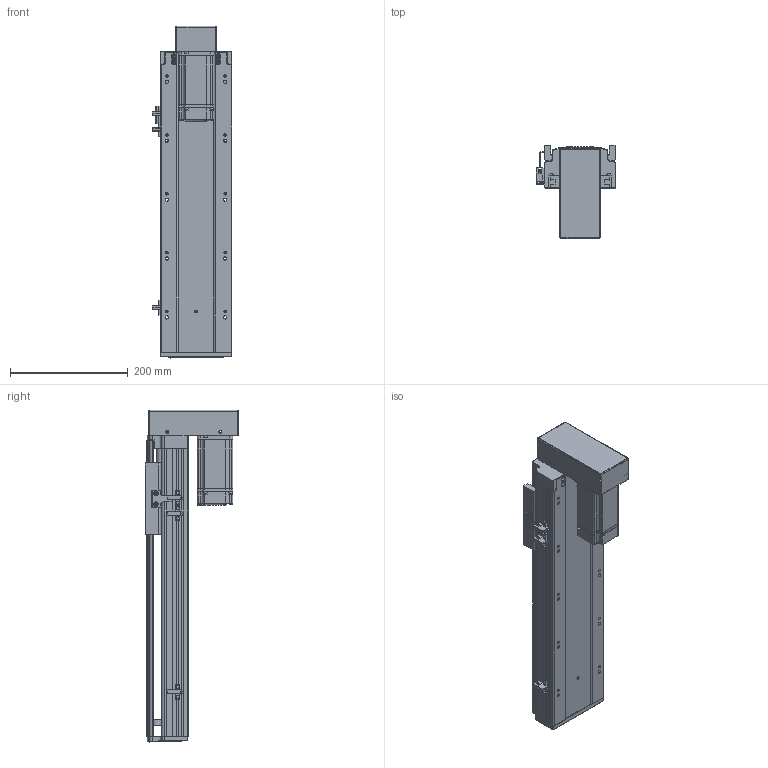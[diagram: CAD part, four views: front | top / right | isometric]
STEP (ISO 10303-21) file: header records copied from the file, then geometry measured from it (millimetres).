
FILE_DESCRIPTION (( 'STEP AP203' ), '1' );
FILE_NAME ('RY120-L2020-300-BK.SLDASM_300.step', '2021-03-12T06:56:57', ( '盈信电脑' ), ( '东莞市道滘镇水果街19号' ), 'SwSTEP 2.0', 'SolidWorks 2012', '' );
FILE_SCHEMA (( 'CONFIG_CONTROL_DESIGN' ));
Products named in the file (15): RY120-L2020-300-BK.SLDASM_300; RY120下折折电机安装板; RY120狟殏萇儂欶; 侂狟400W侜督萇儂; RY120-400W萇儂傷-BK; 15; RY120转拆电端丝杆支撑座(20丝杆，7002轴承); RY120外置感应片(140共用）; 滅袉蝶18-24; RY120綴裔啣; 滅袉蝶18-10; 覜茼ん672; RY120-300-BK蛌殏倰第菁釱; RY120臏賑輸(20蹟譫); RY120-300-BK蛌殏倰第奻裔啣
Assembly tree (17 placements, depth 4):
  RY120-L2020-300-BK.SLDASM_300
    RY120-300-BK蛌殏倰第菁釱
    RY120-300-BK蛌殏倰第奻裔啣
    RY120臏賑輸(20蹟譫)
    RY120綴裔啣
    覜茼ん672  x3
    滅袉蝶18-10
    滅袉蝶18-24  x2
    RY120外置感应片(140共用）
    RY120转拆电端丝杆支撑座(20丝杆，7002轴承)
    RY120-400W萇儂傷-BK
      侂狟400W侜督萇儂
        15
      RY120狟殏萇儂欶
      RY120下折折电机安装板
Bounding box: 135.7 x 159.5 x 564 mm (x, y, z)
Volume: 1975175.6 mm3; surface area: 689433 mm2
Topology: 16 solids, 16 shells, 2292 faces, 6271 edges, 4026 vertices
Faces by surface type: plane 1196, cylinder 808, cone 183, bspline 105
Entity records: 75259 total; most frequent: CARTESIAN_POINT 20805, ORIENTED_EDGE 11302, DIRECTION 10487, EDGE_CURVE 5651, VERTEX_POINT 3694, VECTOR 3597, LINE 3597, AXIS2_PLACEMENT_3D 3445
